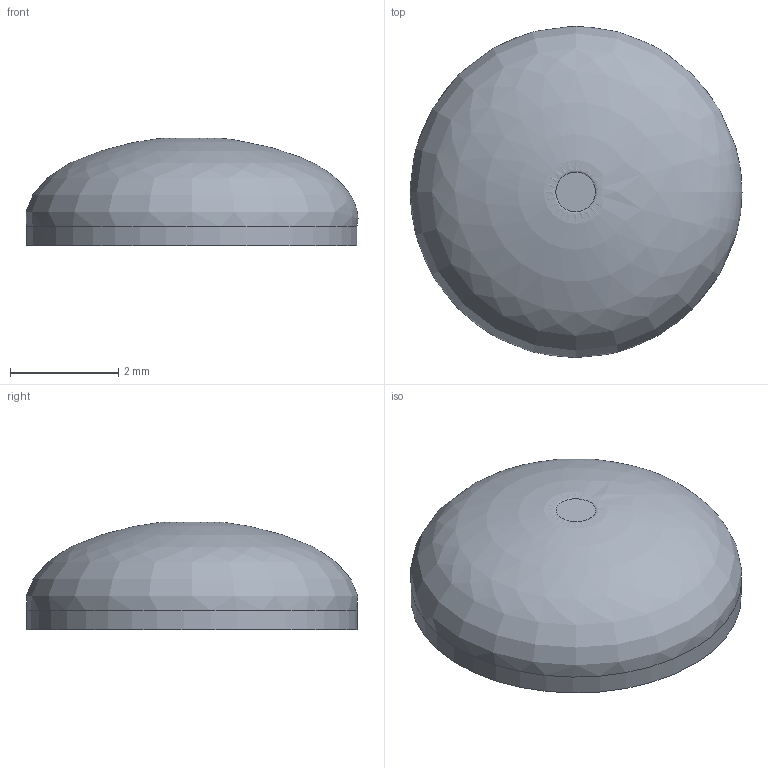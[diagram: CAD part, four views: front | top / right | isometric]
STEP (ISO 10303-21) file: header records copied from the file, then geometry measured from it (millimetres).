
FILE_DESCRIPTION(('Open CASCADE Model'),'2;1');
FILE_NAME('Open CASCADE Shape Model','2026-11-21T19:48:03',('Author'),( 'Open CASCADE'),'Open CASCADE STEP processor 7.9','Open CASCADE 7.9' ,'Unknown');
FILE_SCHEMA(('AUTOMOTIVE_DESIGN { 1 0 10303 214 1 1 1 1 }'));
Length unit declared in the file: millimetre
Products named in the file (1): Open CASCADE STEP translator 7.9 7
Bounding box: 6.15 x 6.13 x 1.99 mm (x, y, z)
Volume: 44.7 mm3; surface area: 79.8 mm2
Topology: 1 solids, 1 shells, 4 faces, 5 edges, 3 vertices
Faces by surface type: plane 2, extrusion 1, bspline 1
Entity records: 251 total; most frequent: CARTESIAN_POINT 129, DIRECTION 21, ORIENTED_EDGE 10, PCURVE 10, DEFINITIONAL_REPRESENTATION 10, VECTOR 9, LINE 8, AXIS2_PLACEMENT_3D 6
